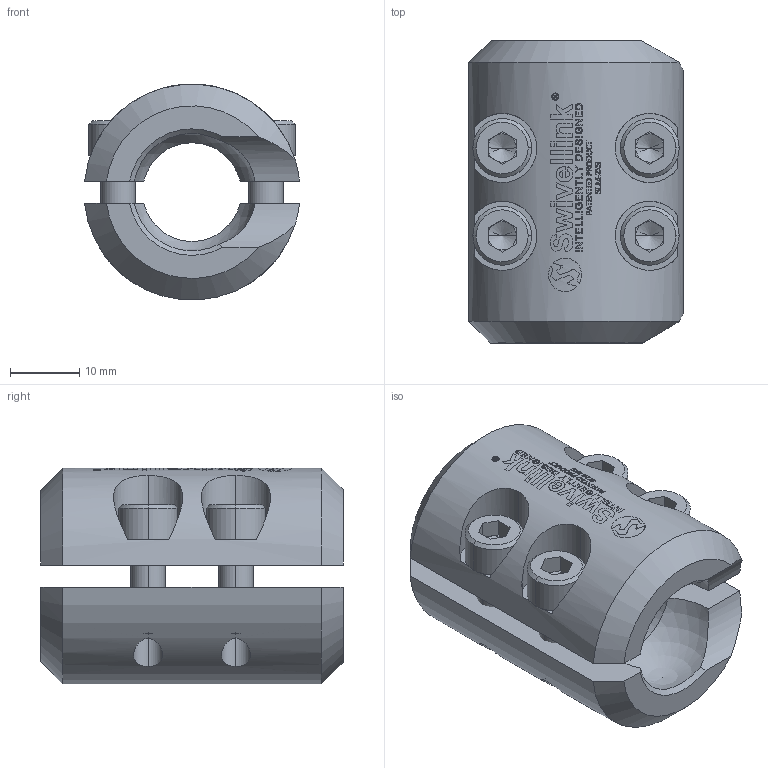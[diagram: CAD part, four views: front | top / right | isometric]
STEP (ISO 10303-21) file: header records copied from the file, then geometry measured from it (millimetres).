
FILE_DESCRIPTION (( 'STEP AP214' ), '1' );
FILE_NAME ('SLM-2XS.STEP', '2018-12-04T11:10:50', ( '' ), ( '' ), 'SwSTEP 2.0', 'SolidWorks 2018', '' );
FILE_SCHEMA (( 'AUTOMOTIVE_DESIGN' ));
Length unit declared in the file: inch
Products named in the file (8): MSHCS-11103323-BO_MSHCS-11103323-BO; SLM-2XS; MSHCS-11103323-BO
Assembly tree (5 placements, depth 2):
  MSHCS-11103323-BO
  MSHCS-11103323-BO
  MSHCS-11103323-BO
  SLM-2XS
  SLM-2XS
    SLM-2XS
    MSHCS-11103323-BO_MSHCS-11103323-BO  x4
Bounding box: 31.08 x 43.69 x 31.2 mm (x, y, z)
Volume: 20822.7 mm3; surface area: 10598.5 mm2
Topology: 6 solids, 6 shells, 236 faces, 1482 edges, 1328 vertices
Faces by surface type: cylinder 118, plane 72, cone 32, torus 10, sphere 4
Entity records: 16198 total; most frequent: CARTESIAN_POINT 5940, ORIENTED_EDGE 2588, EDGE_CURVE 1294, VERTEX_POINT 1221, DIRECTION 1207, B_SPLINE_CURVE_WITH_KNOTS 703, AXIS2_PLACEMENT_3D 452, VECTOR 303
